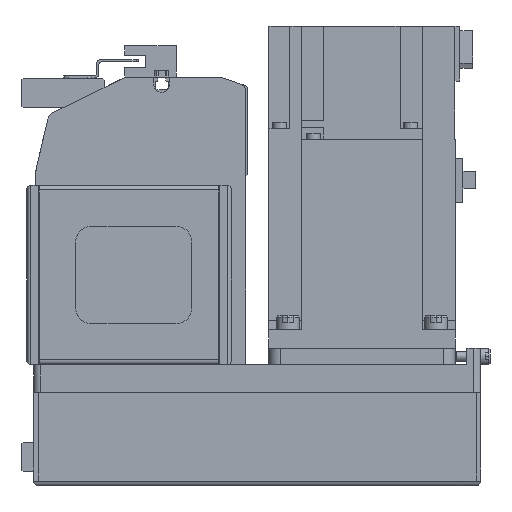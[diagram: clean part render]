
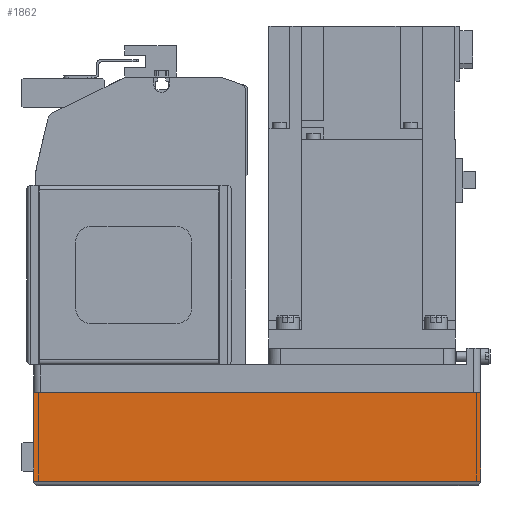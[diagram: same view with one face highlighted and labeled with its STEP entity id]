
A CAD part, left-side view. The second image highlights one B-rep face of the part: STEP entity #1862.
In plain terms, the highlighted planar face has unit normal (-1, 0, 0) as drawn and (0, 1, 0) by its records, which use the part's own axes.
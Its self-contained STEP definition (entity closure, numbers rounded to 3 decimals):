
#1862 = ADVANCED_FACE( '', ( #4312 ), #4313, .T. );
#4312 = FACE_OUTER_BOUND( '', #7496, .T. );
#4313 = PLANE( '', #7497 );
#7496 = EDGE_LOOP( '', ( #12698, #12699, #12700, #12701 ) );
#7497 = AXIS2_PLACEMENT_3D( '', #12702, #12703, #12704 );
#12698 = ORIENTED_EDGE( '', *, *, #20032, .F. );
#12699 = ORIENTED_EDGE( '', *, *, #20033, .F. );
#12700 = ORIENTED_EDGE( '', *, *, #20034, .T. );
#12701 = ORIENTED_EDGE( '', *, *, #18270, .T. );
#12702 = CARTESIAN_POINT( '', ( -192., 40., -50. ) );
#12703 = DIRECTION( '', ( 0., 1., 0. ) );
#12704 = DIRECTION( '', ( 0., 0., 1. ) );
#18270 = EDGE_CURVE( '', #21661, #21688, #21690, .T. );
#20032 = EDGE_CURVE( '', #24621, #21688, #24622, .T. );
#20033 = EDGE_CURVE( '', #24623, #24621, #24624, .T. );
#20034 = EDGE_CURVE( '', #24623, #21661, #24625, .T. );
#21661 = VERTEX_POINT( '', #26724 );
#21688 = VERTEX_POINT( '', #26783 );
#21690 = LINE( '', #26786, #26787 );
#24621 = VERTEX_POINT( '', #30920 );
#24622 = LINE( '', #30921, #30922 );
#24623 = VERTEX_POINT( '', #30923 );
#24624 = LINE( '', #30924, #30925 );
#24625 = LINE( '', #30926, #30927 );
#26724 = CARTESIAN_POINT( '', ( -192., 40., -12.1 ) );
#26783 = CARTESIAN_POINT( '', ( 0., 40., -12.1 ) );
#26786 = CARTESIAN_POINT( '', ( -192., 40., -12.1 ) );
#26787 = VECTOR( '', #34027, 1000. );
#30920 = CARTESIAN_POINT( '', ( 0., 40., -50. ) );
#30921 = CARTESIAN_POINT( '', ( 0., 40., -50. ) );
#30922 = VECTOR( '', #36280, 1000. );
#30923 = CARTESIAN_POINT( '', ( -192., 40., -50. ) );
#30924 = CARTESIAN_POINT( '', ( -192., 40., -50. ) );
#30925 = VECTOR( '', #36281, 1000. );
#30926 = CARTESIAN_POINT( '', ( -192., 40., -50. ) );
#30927 = VECTOR( '', #36282, 1000. );
#34027 = DIRECTION( '', ( 1., 0., 0. ) );
#36280 = DIRECTION( '', ( 0., 0., 1. ) );
#36281 = DIRECTION( '', ( 1., 0., 0. ) );
#36282 = DIRECTION( '', ( 0., 0., 1. ) );
